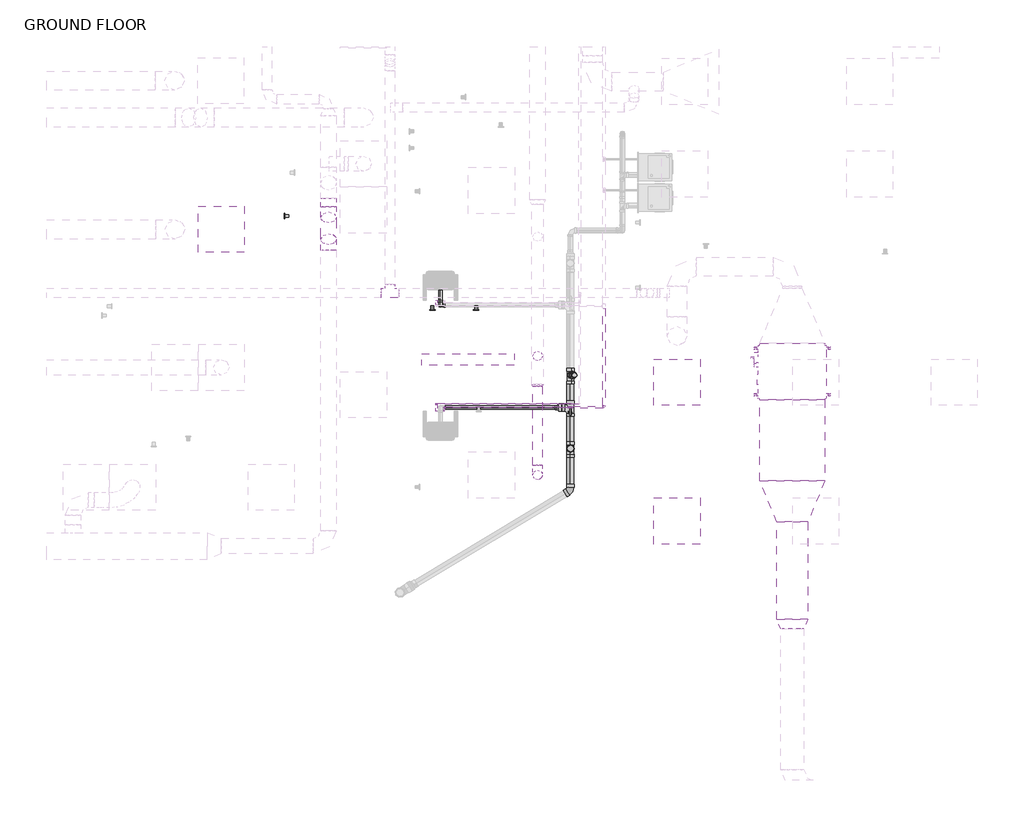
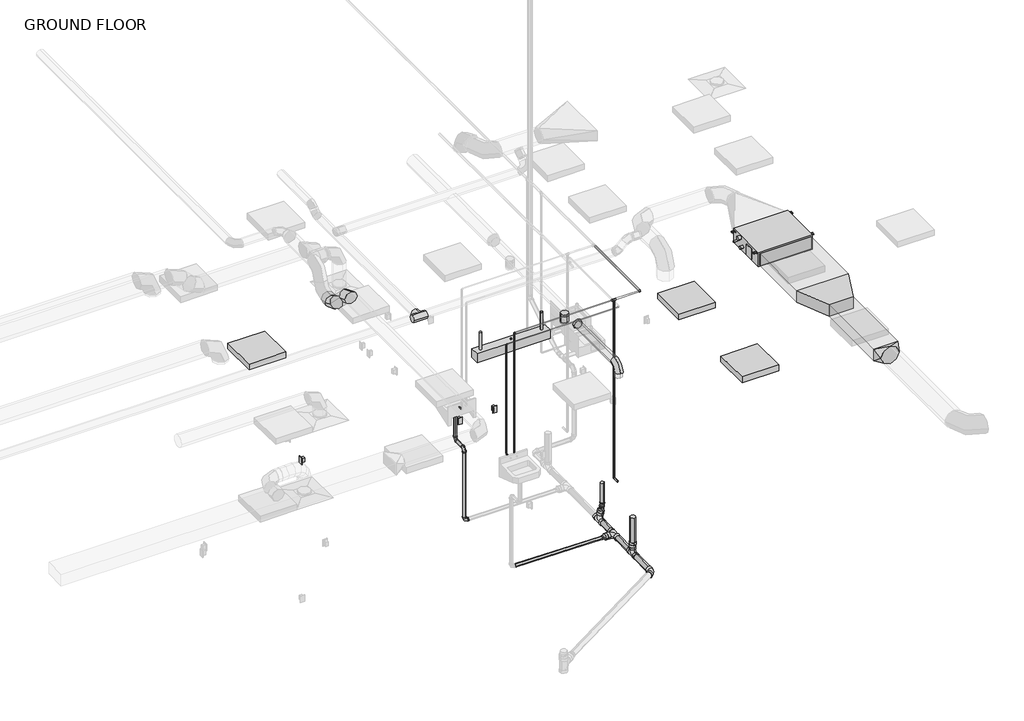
# One storey, part 7 of 21: 22 pipe segments, 20 pipe fittings, 8 duct fittings, 7 duct segments, 4 light fixtures, 3 proxies, 1 switching device.
"""IFC4 building model written with IfcOpenShell, lengths in millimetres."""

from ifc_helpers import new_model, si_unit, point, frame, frame_2d, origin, place, context, project, spatial, polyline, circle_curve, trimmed, segment, composite_curve, outline, extrude, transform, mapped, element, save
from components import mechanical_equipment_7e022f85, duplex_receptacle_countertop_10251bba, rectangular_transition_angle_45_degree_497df859, rectangular_to_round_transition_angle_45_degree_a6b6a24c, round_elbow_1_d_c80420c1, round_elbow_1_d_ab3aa7ba, round_takeoff_standard_0d53327c, round_tee_standard_ef45fe1c, round_transition_angle_45_degree_f2e0231c, suspended_fluorescent_strip_non_hosted_strip_light_1x4_120v_4ea4ccb3, troffer_corner_insert_2x2_3lamp_e67c7f8f, bend_pvc_sch_40_dwv_standard_56513ac6, bend_pvc_sch_40_dwv_standard_efe5b847, bend_pvc_sch_40_dwv_standard_7bd6d8ba, bend_pvc_sch_40_dwv_standard_0d44c437, elbow_generic_standard_c06ac706, elbow_generic_standard_738589b0, elbow_generic_standard_a088f956, reducer_pvc_sch_40_dwv_standard_e0255712, reducer_pvc_sch_40_dwv_standard_bed7e4d3, reducer_pvc_sch_40_dwv_standard_5cd4e870, tee_generic_standard_d345b28c, tee_sanitary_pvc_sch_40_dwv_standard_1c89b272, tee_sanitary_pvc_sch_40_dwv_standard_95650df0, tee_sanitary_pvc_sch_40_dwv_standard_33d2d55c, transition_generic_standard_55f5cc9a, transition_generic_standard_1e832544

model = new_model("IFC4")

# Units and contexts
model_context = context("Model", 3, world=origin())
ifc_project = project(units=[si_unit("LENGTHUNIT", "METRE", prefix="MILLI")], contexts=[model_context])

# Site, building, storey
site = spatial("IfcSite", under=ifc_project)
building = spatial("IfcBuilding", under=site)
storey = spatial("IfcBuildingStorey", under=building, Name="GROUND FLOOR", Elevation=30480.0)

# Proxies
placement = place(None, origin())
mechanical_equipment_shape = mechanical_equipment_7e022f85(model_context)
element("IfcBuildingElementProxy", 1, Name="PEFY-P-NMAU-E_Medium_Static_Ducted : PEFY-P18NMAU-E", ObjectType="PEFY-P-NMAU-E_Medium_Static_Ducted : PEFY-P18NMAU-E", at=placement, inside=storey, context=model_context, shape_type="MappedRepresentation", body=[
    mapped(mechanical_equipment_shape, transform((15856.6983533, -4228.239426, 33604.2), x_axis=(-1.0, 0.0, 0.0), y_axis=(0.0, -1.0, 0.0), z_axis=(0.0, 0.0, 1.0))),
])
duplex_receptacle_countertop_shape = duplex_receptacle_countertop_10251bba(model_context)
element("IfcBuildingElementProxy", 2, Name="Duplex Receptacle : GFCI", ObjectType="Duplex Receptacle : GFCI", at=placement, inside=storey, context=model_context, shape_type="MappedRepresentation", body=[
    mapped(duplex_receptacle_countertop_shape, transform((11695.4238413, -3466.1054995, 31699.2), x_axis=(1.0, 0.0, 0.0), y_axis=(0.0, 0.0, 1.0), z_axis=(0.0, -1.0, 0.0))),
])
element("IfcBuildingElementProxy", 3, Name="Duplex Receptacle : Standard", ObjectType="Duplex Receptacle : Standard", at=placement, inside=storey, context=model_context, shape_type="MappedRepresentation", body=[
    mapped(duplex_receptacle_countertop_shape, transform((9173.5295393, -2231.5768366, 30937.2), x_axis=(0.0, -1.0, 0.0), y_axis=(0.0, 0.0, 1.0), z_axis=(-1.0, 0.0, 0.0))),
])

# Duct fittings
rectangular_transition_angle_45_degree_shape = rectangular_transition_angle_45_degree_497df859(model_context)
element("IfcDuctFitting", 4, ObjectType="Rectangular Transition - Angle : 45 Degree", at=placement, inside=storey, context=model_context, shape_type="MappedRepresentation", body=[
    mapped(rectangular_transition_angle_45_degree_shape, transform((15866.7105962, -5723.664426, 33750.25), x_axis=(0.0, -1.0, 0.0), y_axis=(1.0, 0.0, 0.0), z_axis=(0.0, 0.0, 1.0))),
])
rectangular_to_round_transition_angle_45_degree_shape = rectangular_to_round_transition_angle_45_degree_a6b6a24c(model_context)
element("IfcDuctFitting", 5, ObjectType="Rectangular to Round Transition - Angle : 45 Degree", at=placement, inside=storey, context=model_context, shape_type="MappedRepresentation", body=[
    mapped(rectangular_to_round_transition_angle_45_degree_shape, transform((15866.7105962, -7552.464426, 33750.25), x_axis=(0.0, -1.0, 0.0), y_axis=(1.0, 0.0, 0.0), z_axis=(0.0, 0.0, 1.0))),
])
round_elbow_1_d_shape = round_elbow_1_d_c80420c1(model_context)
element("IfcDuctFitting", 6, ObjectType="Round Elbow : 1 D", at=placement, inside=storey, context=model_context, shape_type="MappedRepresentation", body=[
    mapped(round_elbow_1_d_shape, transform((12507.2795393, -5647.3304995, 33528.0), x_axis=(0.0, 0.0, 1.0), y_axis=(0.0, 1.0, 0.0), z_axis=(-1.0, 0.0, 0.0))),
])
round_elbow_1_d_2_shape = round_elbow_1_d_ab3aa7ba(model_context)
element("IfcDuctFitting", 7, ObjectType="Round Elbow : 1 D", at=placement, inside=storey, context=model_context, shape_type="MappedRepresentation", body=[
    mapped(round_elbow_1_d_2_shape, transform((9751.3795393, -2596.6056414, 33877.25), x_axis=(0.0, 1.0, 0.0), y_axis=(0.0, 0.0, -1.0), z_axis=(-1.0, 0.0, 0.0))),
])
element("IfcDuctFitting", 8, ObjectType="Round Elbow : 1 D", at=placement, inside=storey, context=model_context, shape_type="MappedRepresentation", body=[
    mapped(round_elbow_1_d_2_shape, transform((9751.3795393, -2190.2056414, 33470.85), x_axis=(0.0, 0.7071067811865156, -0.7071067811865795), y_axis=(0.0, 0.7071067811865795, 0.7071067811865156), z_axis=(1.0, 0.0, 0.0))),
])
round_takeoff_standard_shape = round_takeoff_standard_0d53327c(model_context)
element("IfcDuctFitting", 9, ObjectType="Round Takeoff : Standard", at=placement, inside=storey, context=model_context, shape_type="MappedRepresentation", body=[
    mapped(round_takeoff_standard_shape, transform((12507.2795393, -4078.8804995, 33451.8), x_axis=(0.0, 0.0, -1.0), y_axis=(-1.0, 0.0, 0.0), z_axis=(0.0, 1.0, 0.0))),
])
round_tee_standard_shape = round_tee_standard_ef45fe1c(model_context)
element("IfcDuctFitting", 10, ObjectType="Round Tee : Standard", at=placement, inside=storey, context=model_context, shape_type="MappedRepresentation", body=[
    mapped(round_tee_standard_shape, transform((10560.5577502, -3245.6216457, 33602.867541), x_axis=(-1.0, 0.0, 0.0), y_axis=(0.0, -1.0, 0.0), z_axis=(0.0, 0.0, 1.0))),
])
round_transition_angle_45_degree_shape = round_transition_angle_45_degree_f2e0231c(model_context)
element("IfcDuctFitting", 11, ObjectType="Round Transition - Angle : 45 Degree", at=placement, inside=storey, context=model_context, shape_type="MappedRepresentation", body=[
    mapped(round_transition_angle_45_degree_shape, transform((12507.2795393, -4478.9304995, 33528.0), x_axis=(0.0, 1.0, 0.0), y_axis=(-1.0, 0.0, 0.0), z_axis=(0.0, 0.0, 1.0))),
])

# Duct segments
element("IfcDuctSegment", 12, ObjectType="Mitered Elbows / Taps", at=placement, inside=storey, context=model_context, shape_type="SweptSolid", body=[
    extrude(outline(polyline([(15438.8793462, -4656.864426), (16294.5418462, -4656.864426), (16294.5418462, -5723.664426), (15438.8793462, -5723.664426), (15438.8793462, -4656.864426)])), frame((0.0, 0.0, 33647.0625), z_axis=(0.0, 0.0, 1.0), x_axis=(1.0, 0.0, 0.0)), (0.0, 0.0, 1.0), 206.375),
])
element("IfcDuctSegment", 13, ObjectType="Mitered Elbows / Taps", at=placement, inside=storey, context=model_context, shape_type="SweptSolid", body=[
    extrude(outline(polyline([(15663.5105962, -6265.9722363), (16069.9105962, -6265.9722363), (16069.9105962, -7552.464426), (15663.5105962, -7552.464426), (15663.5105962, -6265.9722363)])), frame((0.0, 0.0, 33648.65), z_axis=(0.0, 0.0, 1.0), x_axis=(1.0, 0.0, 0.0)), (0.0, 0.0, 1.0), 203.2),
])
element("IfcDuctSegment", 14, ObjectType="Taps / Short Radius", at=placement, inside=storey, context=model_context, shape_type="SweptSolid", body=[
    extrude(outline(composite_curve([segment(trimmed(circle_curve(frame_2d((33528.0, 12507.2795393)), 63.5), [point((33528.0, 12570.7795393))], [point((33591.5, 12507.2795393))], False, "CARTESIAN"), True, "CONTINUOUS"), segment(trimmed(circle_curve(frame_2d((33528.0, 12507.2795393)), 63.5), [point((33591.5, 12507.2795393))], [point((33528.0, 12443.7795393))], False, "CARTESIAN"), True, "CONTINUOUS"), segment(trimmed(circle_curve(frame_2d((33528.0, 12507.2795393)), 63.5), [point((33528.0, 12443.7795393))], [point((33464.5, 12507.2795393))], False, "CARTESIAN"), True, "CONTINUOUS"), segment(trimmed(circle_curve(frame_2d((33528.0, 12507.2795393)), 63.5), [point((33464.5, 12507.2795393))], [point((33528.0, 12570.7795393))], False, "CARTESIAN"), True, "CONTINUOUS")], self_intersect=False)), frame((0.0, -5520.3304995, 0.0), z_axis=(0.0, 1.0, 0.0), x_axis=(0.0, 0.0, 1.0)), (0.0, 0.0, 1.0), 1041.4),
])
element("IfcDuctSegment", 15, ObjectType="Taps / Short Radius", at=placement, inside=storey, context=model_context, shape_type="SweptSolid", body=[
    extrude(outline(composite_curve([segment(trimmed(circle_curve(frame_2d((12507.2795393, -5647.3304995)), 63.5), [point((12570.7795393, -5647.3304995))], [point((12507.2795393, -5710.8304995))], False, "CARTESIAN"), True, "CONTINUOUS"), segment(trimmed(circle_curve(frame_2d((12507.2795393, -5647.3304995)), 63.5), [point((12507.2795393, -5710.8304995))], [point((12443.7795393, -5647.3304995))], False, "CARTESIAN"), True, "CONTINUOUS"), segment(trimmed(circle_curve(frame_2d((12507.2795393, -5647.3304995)), 63.5), [point((12443.7795393, -5647.3304995))], [point((12507.2795393, -5583.8304995))], False, "CARTESIAN"), True, "CONTINUOUS"), segment(trimmed(circle_curve(frame_2d((12507.2795393, -5647.3304995)), 63.5), [point((12507.2795393, -5583.8304995))], [point((12570.7795393, -5647.3304995))], False, "CARTESIAN"), True, "CONTINUOUS")], self_intersect=False)), frame((0.0, 0.0, 33324.8), z_axis=(0.0, 0.0, 1.0), x_axis=(1.0, 0.0, 0.0)), (0.0, 0.0, 1.0), 76.2),
])
element("IfcDuctSegment", 16, ObjectType="Taps / Short Radius", at=placement, inside=storey, context=model_context, shape_type="SweptSolid", body=[
    extrude(outline(composite_curve([segment(trimmed(circle_curve(frame_2d((0.0, 63.5)), 63.5), [point((-63.5, 63.5))], [point((0.0, 127.0))], False, "CARTESIAN"), True, "CONTINUOUS"), segment(trimmed(circle_curve(frame_2d((0.0, 63.5)), 63.5), [point((0.0, 127.0))], [point((63.5, 63.5))], False, "CARTESIAN"), True, "CONTINUOUS"), segment(trimmed(circle_curve(frame_2d((0.0, 63.5)), 63.5), [point((63.5, 63.5))], [point((0.0, 0.0))], False, "CARTESIAN"), True, "CONTINUOUS"), segment(trimmed(circle_curve(frame_2d((0.0, 63.5)), 63.5), [point((0.0, 0.0))], [point((-63.5, 63.5))], False, "CARTESIAN"), True, "CONTINUOUS")], self_intersect=False)), frame((12507.2795393, -4142.3804995, 33324.8), z_axis=(0.0, -2.3192114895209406e-12, 1.0), x_axis=(1.0, 0.0, 0.0)), (0.0, 0.0, 1.0), 25.4),
])
element("IfcDuctSegment", 17, ObjectType="Taps / Short Radius", at=placement, inside=storey, context=model_context, shape_type="SweptSolid", body=[
    extrude(outline(composite_curve([segment(trimmed(circle_curve(frame_2d((0.0, -101.5999999)), 101.6), [point((101.6, -101.5999999))], [point((0.0, -203.1999999))], False, "CARTESIAN"), True, "CONTINUOUS"), segment(trimmed(circle_curve(frame_2d((0.0, -101.5999999)), 101.6), [point((0.0, -203.1999999))], [point((-101.6, -101.5999999))], False, "CARTESIAN"), True, "CONTINUOUS"), segment(trimmed(circle_curve(frame_2d((0.0, -101.5999999)), 101.6), [point((-101.6, -101.5999999))], [point((0.0, 0.0))], False, "CARTESIAN"), True, "CONTINUOUS"), segment(trimmed(circle_curve(frame_2d((0.0, -101.5999999)), 101.6), [point((0.0, 0.0))], [point((101.6, -101.5999999))], False, "CARTESIAN"), True, "CONTINUOUS")], self_intersect=False)), frame((9751.3795393, -2177.8794945, 33602.207951), z_axis=(0.0, -0.7071067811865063, 0.7071067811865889), x_axis=(1.0, 0.0, 0.0)), (0.0, 0.0, 1.0), 406.4),
])
element("IfcDuctSegment", 18, ObjectType="Taps / Short Radius", at=placement, inside=storey, context=model_context, shape_type="SweptSolid", body=[
    extrude(outline(composite_curve([segment(trimmed(circle_curve(frame_2d((33470.85, 9751.3795393)), 101.6), [point((33470.85, 9649.7795393))], [point((33369.25, 9751.3795393))], False, "CARTESIAN"), True, "CONTINUOUS"), segment(trimmed(circle_curve(frame_2d((33470.85, 9751.3795393)), 101.6), [point((33369.25, 9751.3795393))], [point((33470.85, 9852.9795393))], False, "CARTESIAN"), True, "CONTINUOUS"), segment(trimmed(circle_curve(frame_2d((33470.85, 9751.3795393)), 101.6), [point((33470.85, 9852.9795393))], [point((33572.45, 9751.3795393))], False, "CARTESIAN"), True, "CONTINUOUS"), segment(trimmed(circle_curve(frame_2d((33470.85, 9751.3795393)), 101.6), [point((33572.45, 9751.3795393))], [point((33470.85, 9649.7795393))], False, "CARTESIAN"), True, "CONTINUOUS")], self_intersect=False)), frame((0.0, -2106.0374455, 0.0), z_axis=(0.0, 1.0, 0.0), x_axis=(0.0, 0.0, 1.0)), (0.0, 0.0, 1.0), 109.520905),
])

# Light fixtures
suspended_fluorescent_strip_non_hosted_strip_light_1x4_120v_shape = suspended_fluorescent_strip_non_hosted_strip_light_1x4_120v_4ea4ccb3(model_context)
element("IfcLightFixture", 19, ObjectType="Suspended Fluorescent Strip - Non-Hosted : Strip Light 1x4 - 120V Normal", at=placement, inside=storey, context=model_context, shape_type="MappedRepresentation", body=[
    mapped(suspended_fluorescent_strip_non_hosted_strip_light_1x4_120v_shape, transform((11587.5546722, -4126.5054995, 33223.2), x_axis=(1.0, 0.0, 0.0), y_axis=(0.0, 1.0, 0.0), z_axis=(0.0, 0.0, 1.0))),
])
troffer_corner_insert_2x2_3lamp_shape = troffer_corner_insert_2x2_3lamp_e67c7f8f(model_context)
element("IfcLightFixture", 20, ObjectType="Troffer Corner Insert : 2x2 3Lamp", at=placement, inside=storey, context=model_context, shape_type="MappedRepresentation", body=[
    mapped(troffer_corner_insert_2x2_3lamp_shape, transform((8335.3295393, -2407.6759121, 30784.8), x_axis=(1.0, 0.0, 0.0), y_axis=(0.0, 1.0, 0.0), z_axis=(0.0, 0.0, 1.0))),
])
element("IfcLightFixture", 21, ObjectType="Troffer Corner Insert : 2x2 3Lamp", at=placement, inside=storey, context=model_context, shape_type="MappedRepresentation", body=[
    mapped(troffer_corner_insert_2x2_3lamp_shape, transform((14345.6045393, -4424.9554995, 30784.8), x_axis=(1.0, 0.0, 0.0), y_axis=(0.0, 1.0, 0.0), z_axis=(0.0, 0.0, 1.0))),
])
element("IfcLightFixture", 22, ObjectType="Troffer Corner Insert : 2x2 3Lamp", at=placement, inside=storey, context=model_context, shape_type="MappedRepresentation", body=[
    mapped(troffer_corner_insert_2x2_3lamp_shape, transform((14345.6045393, -6253.7554995, 30784.8), x_axis=(1.0, 0.0, 0.0), y_axis=(0.0, 1.0, 0.0), z_axis=(0.0, 0.0, 1.0))),
])

# Pipe fittings
bend_pvc_sch_40_dwv_standard_shape = bend_pvc_sch_40_dwv_standard_56513ac6(model_context)
element("IfcPipeFitting", 23, ObjectType="Bend - PVC - Sch 40 - DWV : Standard", at=placement, inside=storey, context=model_context, shape_type="MappedRepresentation", body=[
    mapped(bend_pvc_sch_40_dwv_standard_shape, transform((11224.5795393, -3139.0804995, 31140.4), x_axis=(0.0, 0.0, -1.0), y_axis=(0.0, -1.0, 0.0), z_axis=(-1.0, 0.0, 0.0))),
])
element("IfcPipeFitting", 24, ObjectType="Bend - PVC - Sch 40 - DWV : Standard", at=placement, inside=storey, context=model_context, shape_type="MappedRepresentation", body=[
    mapped(bend_pvc_sch_40_dwv_standard_shape, transform((11224.5795393, -3405.7804995, 31137.621875), x_axis=(0.0, -0.9999457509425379, -0.010416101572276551), y_axis=(0.0, 0.010416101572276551, -0.9999457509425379), z_axis=(1.0, 0.0, 0.0))),
])
bend_pvc_sch_40_dwv_standard_2_shape = bend_pvc_sch_40_dwv_standard_efe5b847(model_context)
element("IfcPipeFitting", 25, ObjectType="Bend - PVC - Sch 40 - DWV : Standard", at=placement, inside=storey, context=model_context, shape_type="MappedRepresentation", body=[
    mapped(bend_pvc_sch_40_dwv_standard_2_shape, transform((11224.5795393, -3405.7804995, 29869.9466323), x_axis=(0.0, 0.0, -1.0), y_axis=(1.0, 0.0, 0.0), z_axis=(0.0, -1.0, 0.0))),
])
bend_pvc_sch_40_dwv_standard_3_shape = bend_pvc_sch_40_dwv_standard_7bd6d8ba(model_context)
element("IfcPipeFitting", 26, ObjectType="Bend - PVC - Sch 40 - DWV : Standard", at=placement, inside=storey, context=model_context, shape_type="MappedRepresentation", body=[
    mapped(bend_pvc_sch_40_dwv_standard_3_shape, transform((12939.0795393, -5850.5304995, 29839.1791667), x_axis=(0.8571673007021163, 0.5150380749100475, 0.0), y_axis=(-0.5150000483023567, 0.8571040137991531, 0.012151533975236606), z_axis=(0.006258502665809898, -0.010415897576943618, 0.9999261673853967))),
])
bend_pvc_sch_40_dwv_standard_4_shape = bend_pvc_sch_40_dwv_standard_0d44c437(model_context)
element("IfcPipeFitting", 27, ObjectType="Bend - PVC - Sch 40 - DWV : Standard", at=placement, inside=storey, context=model_context, shape_type="MappedRepresentation", body=[
    mapped(bend_pvc_sch_40_dwv_standard_4_shape, transform((12993.0545393, -4329.7054995, 30099.0), x_axis=(0.0, 0.0, -1.0), y_axis=(-1.0, 0.0, 0.0), z_axis=(0.0, 1.0, 0.0))),
])
elbow_generic_standard_shape = elbow_generic_standard_c06ac706(model_context)
element("IfcPipeFitting", 28, ObjectType="Elbow - Generic : Standard", at=placement, inside=storey, context=model_context, shape_type="MappedRepresentation", body=[
    mapped(elbow_generic_standard_shape, transform((13383.5569177, -4755.5406482, 33978.2831664), x_axis=(1.0, 0.0, 0.0), y_axis=(0.0, 1.0, 0.0), z_axis=(0.0, 0.0, 1.0))),
])
elbow_generic_standard_2_shape = elbow_generic_standard_738589b0(model_context)
element("IfcPipeFitting", 29, ObjectType="Elbow - Generic : Standard", at=placement, inside=storey, context=model_context, shape_type="MappedRepresentation", body=[
    mapped(elbow_generic_standard_2_shape, transform((12942.2545393, -4755.5406482, 30835.6), x_axis=(0.0, 0.0, -1.0), y_axis=(0.0, -1.0, 0.0), z_axis=(-1.0, 0.0, 0.0))),
])
elbow_generic_standard_3_shape = elbow_generic_standard_a088f956(model_context)
element("IfcPipeFitting", 30, ObjectType="Elbow - Generic : Standard", at=placement, inside=storey, context=model_context, shape_type="MappedRepresentation", body=[
    mapped(elbow_generic_standard_3_shape, transform((11275.3795393, -4755.5406482, 31851.6), x_axis=(0.0, 1.0, 0.0), y_axis=(0.0, 0.0, 1.0), z_axis=(1.0, 0.0, 0.0))),
])
element("IfcPipeFitting", 31, ObjectType="Elbow - Generic : Standard", at=placement, inside=storey, context=model_context, shape_type="MappedRepresentation", body=[
    mapped(elbow_generic_standard_3_shape, transform((11275.3795393, -4755.5406482, 33978.2831664), x_axis=(0.0, 0.0, 1.0), y_axis=(1.0, 0.0, 0.0), z_axis=(0.0, 1.0, 0.0))),
])
element("IfcPipeFitting", 32, ObjectType="Elbow - Generic : Standard", at=placement, inside=storey, context=model_context, shape_type="MappedRepresentation", body=[
    mapped(elbow_generic_standard_3_shape, transform((11173.7795393, -4707.5304995, 31851.6), x_axis=(0.0, 1.0, 0.0), y_axis=(0.0, 0.0, 1.0), z_axis=(1.0, 0.0, 0.0))),
])
element("IfcPipeFitting", 33, ObjectType="Elbow - Generic : Standard", at=placement, inside=storey, context=model_context, shape_type="MappedRepresentation", body=[
    mapped(elbow_generic_standard_3_shape, transform((11173.7795393, -4707.5304995, 33782.0), x_axis=(0.0, 0.0, 1.0), y_axis=(1.0, 0.0, 0.0), z_axis=(0.0, 1.0, 0.0))),
])
reducer_pvc_sch_40_dwv_standard_shape = reducer_pvc_sch_40_dwv_standard_e0255712(model_context)
element("IfcPipeFitting", 34, ObjectType="Reducer - PVC - Sch 40 - DWV : Standard", at=placement, inside=storey, context=model_context, shape_type="MappedRepresentation", body=[
    mapped(reducer_pvc_sch_40_dwv_standard_shape, transform((12939.0795393, -5298.0804995, 29960.8340542), x_axis=(0.0, 0.0, 1.0), y_axis=(1.0, 0.0, 0.0), z_axis=(0.0, 1.0, 0.0))),
])
reducer_pvc_sch_40_dwv_standard_2_shape = reducer_pvc_sch_40_dwv_standard_bed7e4d3(model_context)
element("IfcPipeFitting", 35, ObjectType="Reducer - PVC - Sch 40 - DWV : Standard", at=placement, inside=storey, context=model_context, shape_type="MappedRepresentation", body=[
    mapped(reducer_pvc_sch_40_dwv_standard_2_shape, transform((12823.1871597, -4758.3304995, 29851.9026209), x_axis=(-0.9999325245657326, 0.0, 0.011616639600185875), y_axis=(-0.00012099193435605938, -0.9999457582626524, -0.010414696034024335), z_axis=(0.01161600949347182, -0.010415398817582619, 0.9998782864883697))),
])
reducer_pvc_sch_40_dwv_standard_3_shape = reducer_pvc_sch_40_dwv_standard_5cd4e870(model_context)
element("IfcPipeFitting", 36, ObjectType="Reducer - PVC - Sch 40 - DWV : Standard", at=placement, inside=storey, context=model_context, shape_type="MappedRepresentation", body=[
    mapped(reducer_pvc_sch_40_dwv_standard_3_shape, transform((12963.7691002, -4329.7054995, 29968.2251453), x_axis=(0.2130243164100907, 0.0, 0.977046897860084), y_axis=(-0.0021680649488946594, 0.9999975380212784, 0.00047270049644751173), z_axis=(-0.9770444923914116, -0.0022189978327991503, 0.21302379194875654))),
])
tee_generic_standard_shape = tee_generic_standard_d345b28c(model_context)
element("IfcPipeFitting", 37, ObjectType="Tee - Generic : Standard", at=placement, inside=storey, context=model_context, shape_type="MappedRepresentation", body=[
    mapped(tee_generic_standard_shape, transform((12942.2545393, -4755.5406482, 33978.2831664), x_axis=(-1.0, 0.0, 0.0), y_axis=(0.0, 0.0, 1.0), z_axis=(0.0, 1.0, 0.0))),
])
tee_sanitary_pvc_sch_40_dwv_standard_shape = tee_sanitary_pvc_sch_40_dwv_standard_1c89b272(model_context)
element("IfcPipeFitting", 38, ObjectType="Tee Sanitary - PVC - Sch 40 - DWV : Standard", at=placement, inside=storey, context=model_context, shape_type="MappedRepresentation", body=[
    mapped(tee_sanitary_pvc_sch_40_dwv_standard_shape, transform((12939.0795393, -5298.0804995, 29844.9338542), x_axis=(0.0, 0.9999457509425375, 0.010416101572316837), y_axis=(0.0, 0.010416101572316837, -0.9999457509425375), z_axis=(-1.0, 0.0, 0.0))),
])
tee_sanitary_pvc_sch_40_dwv_standard_2_shape = tee_sanitary_pvc_sch_40_dwv_standard_95650df0(model_context)
element("IfcPipeFitting", 39, ObjectType="Tee Sanitary - PVC - Sch 40 - DWV : Standard", at=placement, inside=storey, context=model_context, shape_type="MappedRepresentation", body=[
    mapped(tee_sanitary_pvc_sch_40_dwv_standard_2_shape, transform((12939.0795393, -4758.3304995, 29850.55625), x_axis=(0.0, 0.9999457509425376, 0.010416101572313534), y_axis=(0.9999325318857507, 0.00012099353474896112, -0.011615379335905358), z_axis=(-0.011616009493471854, 0.010415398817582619, -0.9998782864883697))),
])
tee_sanitary_pvc_sch_40_dwv_standard_3_shape = tee_sanitary_pvc_sch_40_dwv_standard_33d2d55c(model_context)
element("IfcPipeFitting", 40, ObjectType="Tee Sanitary - PVC - Sch 40 - DWV : Standard", at=placement, inside=storey, context=model_context, shape_type="MappedRepresentation", body=[
    mapped(tee_sanitary_pvc_sch_40_dwv_standard_3_shape, transform((12939.0795393, -4329.7058732, 29855.0210899), x_axis=(0.0, 0.9999457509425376, 0.01041610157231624), y_axis=(-0.2130353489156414, 0.010176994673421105, -0.9769914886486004), z_axis=(-0.9770444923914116, -0.0022189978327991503, 0.21302379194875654))),
])
transition_generic_standard_shape = transition_generic_standard_55f5cc9a(model_context)
element("IfcPipeFitting", 41, ObjectType="Transition - Generic : Standard", at=placement, inside=storey, context=model_context, shape_type="MappedRepresentation", body=[
    mapped(transition_generic_standard_shape, transform((12903.0725627, -4755.5406482, 33978.2831664), x_axis=(1.0, 0.0, 0.0), y_axis=(0.0, 1.0, 0.0), z_axis=(0.0, 0.0, 1.0))),
])
transition_generic_standard_2_shape = transition_generic_standard_1e832544(model_context)
element("IfcPipeFitting", 42, ObjectType="Transition - Generic : Standard", at=placement, inside=storey, context=model_context, shape_type="MappedRepresentation", body=[
    mapped(transition_generic_standard_2_shape, transform((12942.2545393, -4755.5406482, 33951.2956664), x_axis=(0.0, 0.0, -1.0), y_axis=(1.0, 0.0, 0.0), z_axis=(0.0, -1.0, 0.0))),
])

# Pipe segments
element("IfcPipeSegment", 43, ObjectType="Copper", at=placement, inside=storey, context=model_context, shape_type="SweptSolid", body=[
    extrude(outline(composite_curve([segment(trimmed(circle_curve(frame_2d((33978.2831664, 13383.5569177)), 14.2875), [point((33978.2831664, 13369.2694177))], [point((33963.9956664, 13383.5569177))], False, "CARTESIAN"), True, "CONTINUOUS"), segment(trimmed(circle_curve(frame_2d((33978.2831664, 13383.5569177)), 14.2875), [point((33963.9956664, 13383.5569177))], [point((33978.2831664, 13397.8444177))], False, "CARTESIAN"), True, "CONTINUOUS"), segment(trimmed(circle_curve(frame_2d((33978.2831664, 13383.5569177)), 14.2875), [point((33978.2831664, 13397.8444177))], [point((33992.5706664, 13383.5569177))], False, "CARTESIAN"), True, "CONTINUOUS"), segment(trimmed(circle_curve(frame_2d((33978.2831664, 13383.5569177)), 14.2875), [point((33992.5706664, 13383.5569177))], [point((33978.2831664, 13369.2694177))], False, "CARTESIAN"), True, "CONTINUOUS")], self_intersect=False)), frame((0.0, -4734.9031482, 0.0), z_axis=(0.0, 1.0, 0.0), x_axis=(0.0, 0.0, 1.0)), (0.0, 0.0, 1.0), 1289.4351487),
])
element("IfcPipeSegment", 44, ObjectType="Copper", at=placement, inside=storey, context=model_context, shape_type="SweptSolid", body=[
    extrude(outline(composite_curve([segment(trimmed(circle_curve(frame_2d((-4755.5406482, 33978.2831664)), 14.2875), [point((-4741.2531482, 33978.2831664))], [point((-4755.5406482, 33963.9956664))], False, "CARTESIAN"), True, "CONTINUOUS"), segment(trimmed(circle_curve(frame_2d((-4755.5406482, 33978.2831664)), 14.2875), [point((-4755.5406482, 33963.9956664))], [point((-4769.8281482, 33978.2831664))], False, "CARTESIAN"), True, "CONTINUOUS"), segment(trimmed(circle_curve(frame_2d((-4755.5406482, 33978.2831664)), 14.2875), [point((-4769.8281482, 33978.2831664))], [point((-4755.5406482, 33992.5706664))], False, "CARTESIAN"), True, "CONTINUOUS"), segment(trimmed(circle_curve(frame_2d((-4755.5406482, 33978.2831664)), 14.2875), [point((-4755.5406482, 33992.5706664))], [point((-4741.2531482, 33978.2831664))], False, "CARTESIAN"), True, "CONTINUOUS")], self_intersect=False)), frame((12910.2163127, 0.0, 0.0), z_axis=(1.0, 0.0, 0.0), x_axis=(0.0, 1.0, 0.0)), (0.0, 0.0, 1.0), 5.0507266),
])
element("IfcPipeSegment", 45, ObjectType="Copper", at=placement, inside=storey, context=model_context, shape_type="SweptSolid", body=[
    extrude(outline(composite_curve([segment(trimmed(circle_curve(frame_2d((31851.6, 11275.3795393)), 7.9375), [point((31851.6, 11283.3170393))], [point((31859.5375, 11275.3795393))], False, "CARTESIAN"), True, "CONTINUOUS"), segment(trimmed(circle_curve(frame_2d((31851.6, 11275.3795393)), 7.9375), [point((31859.5375, 11275.3795393))], [point((31851.6, 11267.4420393))], False, "CARTESIAN"), True, "CONTINUOUS"), segment(trimmed(circle_curve(frame_2d((31851.6, 11275.3795393)), 7.9375), [point((31851.6, 11267.4420393))], [point((31843.6625, 11275.3795393))], False, "CARTESIAN"), True, "CONTINUOUS"), segment(trimmed(circle_curve(frame_2d((31851.6, 11275.3795393)), 7.9375), [point((31843.6625, 11275.3795393))], [point((31851.6, 11283.3170393))], False, "CARTESIAN"), True, "CONTINUOUS")], self_intersect=False)), frame((0.0, -4809.1304995, 0.0), z_axis=(0.0, 1.0, 0.0), x_axis=(0.0, 0.0, 1.0)), (0.0, 0.0, 1.0), 39.3023513),
])
element("IfcPipeSegment", 46, ObjectType="Copper", at=placement, inside=storey, context=model_context, shape_type="SweptSolid", body=[
    extrude(outline(composite_curve([segment(trimmed(circle_curve(frame_2d((-4755.5406482, 33978.2831664)), 7.9375), [point((-4763.4781482, 33978.2831664))], [point((-4755.5406482, 33986.2206664))], False, "CARTESIAN"), True, "CONTINUOUS"), segment(trimmed(circle_curve(frame_2d((-4755.5406482, 33978.2831664)), 7.9375), [point((-4755.5406482, 33986.2206664))], [point((-4747.6031482, 33978.2831664))], False, "CARTESIAN"), True, "CONTINUOUS"), segment(trimmed(circle_curve(frame_2d((-4755.5406482, 33978.2831664)), 7.9375), [point((-4747.6031482, 33978.2831664))], [point((-4755.5406482, 33970.3456664))], False, "CARTESIAN"), True, "CONTINUOUS"), segment(trimmed(circle_curve(frame_2d((-4755.5406482, 33978.2831664)), 7.9375), [point((-4755.5406482, 33970.3456664))], [point((-4763.4781482, 33978.2831664))], False, "CARTESIAN"), True, "CONTINUOUS")], self_intersect=False)), frame((11289.6670393, 0.0, 0.0), z_axis=(1.0, 0.0, 0.0), x_axis=(0.0, 1.0, 0.0)), (0.0, 0.0, 1.0), 1613.4055234),
])
element("IfcPipeSegment", 47, ObjectType="Copper", at=placement, inside=storey, context=model_context, shape_type="SweptSolid", body=[
    extrude(outline(composite_curve([segment(trimmed(circle_curve(frame_2d((11275.3795393, -4755.5406482)), 7.9375), [point((11267.4420393, -4755.5406482))], [point((11275.3795393, -4747.6031482))], False, "CARTESIAN"), True, "CONTINUOUS"), segment(trimmed(circle_curve(frame_2d((11275.3795393, -4755.5406482)), 7.9375), [point((11275.3795393, -4747.6031482))], [point((11283.3170393, -4755.5406482))], False, "CARTESIAN"), True, "CONTINUOUS"), segment(trimmed(circle_curve(frame_2d((11275.3795393, -4755.5406482)), 7.9375), [point((11283.3170393, -4755.5406482))], [point((11275.3795393, -4763.4781482))], False, "CARTESIAN"), True, "CONTINUOUS"), segment(trimmed(circle_curve(frame_2d((11275.3795393, -4755.5406482)), 7.9375), [point((11275.3795393, -4763.4781482))], [point((11267.4420393, -4755.5406482))], False, "CARTESIAN"), True, "CONTINUOUS")], self_intersect=False)), frame((0.0, 0.0, 31865.8875), z_axis=(0.0, 0.0, 1.0), x_axis=(1.0, 0.0, 0.0)), (0.0, 0.0, 1.0), 2098.1081664),
])
element("IfcPipeSegment", 48, ObjectType="Copper", at=placement, inside=storey, context=model_context, shape_type="SweptSolid", body=[
    extrude(outline(composite_curve([segment(trimmed(circle_curve(frame_2d((30835.6, 12942.2545393)), 11.1125), [point((30835.6, 12931.1420393))], [point((30824.4875, 12942.2545393))], False, "CARTESIAN"), True, "CONTINUOUS"), segment(trimmed(circle_curve(frame_2d((30835.6, 12942.2545393)), 11.1125), [point((30824.4875, 12942.2545393))], [point((30835.6, 12953.3670393))], False, "CARTESIAN"), True, "CONTINUOUS"), segment(trimmed(circle_curve(frame_2d((30835.6, 12942.2545393)), 11.1125), [point((30835.6, 12953.3670393))], [point((30846.7125, 12942.2545393))], False, "CARTESIAN"), True, "CONTINUOUS"), segment(trimmed(circle_curve(frame_2d((30835.6, 12942.2545393)), 11.1125), [point((30846.7125, 12942.2545393))], [point((30835.6, 12931.1420393))], False, "CARTESIAN"), True, "CONTINUOUS")], self_intersect=False)), frame((0.0, -4859.9304995, 0.0), z_axis=(0.0, 1.0, 0.0), x_axis=(0.0, 0.0, 1.0)), (0.0, 0.0, 1.0), 86.9273513),
])
element("IfcPipeSegment", 49, ObjectType="Copper", at=placement, inside=storey, context=model_context, shape_type="SweptSolid", body=[
    extrude(outline(composite_curve([segment(trimmed(circle_curve(frame_2d((12942.2545393, -4755.5406482)), 11.1125), [point((12953.3670393, -4755.5406482))], [point((12942.2545393, -4766.6531482))], False, "CARTESIAN"), True, "CONTINUOUS"), segment(trimmed(circle_curve(frame_2d((12942.2545393, -4755.5406482)), 11.1125), [point((12942.2545393, -4766.6531482))], [point((12931.1420393, -4755.5406482))], False, "CARTESIAN"), True, "CONTINUOUS"), segment(trimmed(circle_curve(frame_2d((12942.2545393, -4755.5406482)), 11.1125), [point((12931.1420393, -4755.5406482))], [point((12942.2545393, -4744.4281482))], False, "CARTESIAN"), True, "CONTINUOUS"), segment(trimmed(circle_curve(frame_2d((12942.2545393, -4755.5406482)), 11.1125), [point((12942.2545393, -4744.4281482))], [point((12953.3670393, -4755.5406482))], False, "CARTESIAN"), True, "CONTINUOUS")], self_intersect=False)), frame((0.0, 0.0, 30853.0625), z_axis=(0.0, 0.0, 1.0), x_axis=(1.0, 0.0, 0.0)), (0.0, 0.0, 1.0), 3091.0894164),
])
element("IfcPipeSegment", 50, ObjectType="Copper", at=placement, inside=storey, context=model_context, shape_type="SweptSolid", body=[
    extrude(outline(composite_curve([segment(trimmed(circle_curve(frame_2d((-4755.5406482, 33978.2831664)), 14.2875), [point((-4741.2531482, 33978.2831664))], [point((-4755.5406482, 33963.9956664))], False, "CARTESIAN"), True, "CONTINUOUS"), segment(trimmed(circle_curve(frame_2d((-4755.5406482, 33978.2831664)), 14.2875), [point((-4755.5406482, 33963.9956664))], [point((-4769.8281482, 33978.2831664))], False, "CARTESIAN"), True, "CONTINUOUS"), segment(trimmed(circle_curve(frame_2d((-4755.5406482, 33978.2831664)), 14.2875), [point((-4769.8281482, 33978.2831664))], [point((-4755.5406482, 33992.5706664))], False, "CARTESIAN"), True, "CONTINUOUS"), segment(trimmed(circle_curve(frame_2d((-4755.5406482, 33978.2831664)), 14.2875), [point((-4755.5406482, 33992.5706664))], [point((-4741.2531482, 33978.2831664))], False, "CARTESIAN"), True, "CONTINUOUS")], self_intersect=False)), frame((12969.2420393, 0.0, 0.0), z_axis=(1.0, 0.0, 0.0), x_axis=(0.0, 1.0, 0.0)), (0.0, 0.0, 1.0), 393.6773784),
])
element("IfcPipeSegment", 51, ObjectType="Copper", at=placement, inside=storey, context=model_context, shape_type="SweptSolid", body=[
    extrude(outline(composite_curve([segment(trimmed(circle_curve(frame_2d((31851.6, 11173.7795393)), 7.9375), [point((31851.6, 11165.8420393))], [point((31843.6625, 11173.7795393))], False, "CARTESIAN"), True, "CONTINUOUS"), segment(trimmed(circle_curve(frame_2d((31851.6, 11173.7795393)), 7.9375), [point((31843.6625, 11173.7795393))], [point((31851.6, 11181.7170393))], False, "CARTESIAN"), True, "CONTINUOUS"), segment(trimmed(circle_curve(frame_2d((31851.6, 11173.7795393)), 7.9375), [point((31851.6, 11181.7170393))], [point((31859.5375, 11173.7795393))], False, "CARTESIAN"), True, "CONTINUOUS"), segment(trimmed(circle_curve(frame_2d((31851.6, 11173.7795393)), 7.9375), [point((31859.5375, 11173.7795393))], [point((31851.6, 11165.8420393))], False, "CARTESIAN"), True, "CONTINUOUS")], self_intersect=False)), frame((0.0, -3404.1929995, 0.0), z_axis=(0.0, 1.0, 0.0), x_axis=(0.0, 0.0, 1.0)), (0.0, 0.0, 1.0), 61.9125),
])
element("IfcPipeSegment", 52, ObjectType="Copper", at=placement, inside=storey, context=model_context, shape_type="SweptSolid", body=[
    extrude(outline(composite_curve([segment(trimmed(circle_curve(frame_2d((31851.6, 11173.7795393)), 7.9375), [point((31851.6, 11181.7170393))], [point((31859.5375, 11173.7795393))], False, "CARTESIAN"), True, "CONTINUOUS"), segment(trimmed(circle_curve(frame_2d((31851.6, 11173.7795393)), 7.9375), [point((31859.5375, 11173.7795393))], [point((31851.6, 11165.8420393))], False, "CARTESIAN"), True, "CONTINUOUS"), segment(trimmed(circle_curve(frame_2d((31851.6, 11173.7795393)), 7.9375), [point((31851.6, 11165.8420393))], [point((31843.6625, 11173.7795393))], False, "CARTESIAN"), True, "CONTINUOUS"), segment(trimmed(circle_curve(frame_2d((31851.6, 11173.7795393)), 7.9375), [point((31843.6625, 11173.7795393))], [point((31851.6, 11181.7170393))], False, "CARTESIAN"), True, "CONTINUOUS")], self_intersect=False)), frame((0.0, -4809.1304995, 0.0), z_axis=(0.0, 1.0, 0.0), x_axis=(0.0, 0.0, 1.0)), (0.0, 0.0, 1.0), 87.3125),
])
element("IfcPipeSegment", 53, ObjectType="Copper", at=placement, inside=storey, context=model_context, shape_type="SweptSolid", body=[
    extrude(outline(composite_curve([segment(trimmed(circle_curve(frame_2d((-4707.5304995, 33782.0)), 7.9375), [point((-4715.4679995, 33782.0))], [point((-4707.5304995, 33789.9375))], False, "CARTESIAN"), True, "CONTINUOUS"), segment(trimmed(circle_curve(frame_2d((-4707.5304995, 33782.0)), 7.9375), [point((-4707.5304995, 33789.9375))], [point((-4699.5929995, 33782.0))], False, "CARTESIAN"), True, "CONTINUOUS"), segment(trimmed(circle_curve(frame_2d((-4707.5304995, 33782.0)), 7.9375), [point((-4699.5929995, 33782.0))], [point((-4707.5304995, 33774.0625))], False, "CARTESIAN"), True, "CONTINUOUS"), segment(trimmed(circle_curve(frame_2d((-4707.5304995, 33782.0)), 7.9375), [point((-4707.5304995, 33774.0625))], [point((-4715.4679995, 33782.0))], False, "CARTESIAN"), True, "CONTINUOUS")], self_intersect=False)), frame((11188.0670393, 0.0, 0.0), z_axis=(1.0, 0.0, 0.0), x_axis=(0.0, 1.0, 0.0)), (0.0, 0.0, 1.0), 1858.5966648),
])
element("IfcPipeSegment", 54, ObjectType="Copper", at=placement, inside=storey, context=model_context, shape_type="SweptSolid", body=[
    extrude(outline(composite_curve([segment(trimmed(circle_curve(frame_2d((11173.7795393, -4707.5304995)), 7.9375), [point((11165.8420393, -4707.5304995))], [point((11173.7795393, -4699.5929995))], False, "CARTESIAN"), True, "CONTINUOUS"), segment(trimmed(circle_curve(frame_2d((11173.7795393, -4707.5304995)), 7.9375), [point((11173.7795393, -4699.5929995))], [point((11181.7170393, -4707.5304995))], False, "CARTESIAN"), True, "CONTINUOUS"), segment(trimmed(circle_curve(frame_2d((11173.7795393, -4707.5304995)), 7.9375), [point((11181.7170393, -4707.5304995))], [point((11173.7795393, -4715.4679995))], False, "CARTESIAN"), True, "CONTINUOUS"), segment(trimmed(circle_curve(frame_2d((11173.7795393, -4707.5304995)), 7.9375), [point((11173.7795393, -4715.4679995))], [point((11165.8420393, -4707.5304995))], False, "CARTESIAN"), True, "CONTINUOUS")], self_intersect=False)), frame((0.0, 0.0, 31865.8875), z_axis=(0.0, 0.0, 1.0), x_axis=(1.0, 0.0, 0.0)), (0.0, 0.0, 1.0), 1901.825),
])
element("IfcPipeSegment", 55, ObjectType="PVC - DWV", at=placement, inside=storey, context=model_context, shape_type="SweptSolid", body=[
    extrude(outline(composite_curve([segment(trimmed(circle_curve(frame_2d((12942.2545393, -5298.0804995)), 44.45), [point((12986.7045393, -5298.0804995))], [point((12942.2545393, -5342.5304995))], False, "CARTESIAN"), True, "CONTINUOUS"), segment(trimmed(circle_curve(frame_2d((12942.2545393, -5298.0804995)), 44.45), [point((12942.2545393, -5342.5304995))], [point((12897.8045393, -5298.0804995))], False, "CARTESIAN"), True, "CONTINUOUS"), segment(trimmed(circle_curve(frame_2d((12942.2545393, -5298.0804995)), 44.45), [point((12897.8045393, -5298.0804995))], [point((12942.2545393, -5253.6304995))], False, "CARTESIAN"), True, "CONTINUOUS"), segment(trimmed(circle_curve(frame_2d((12942.2545393, -5298.0804995)), 44.45), [point((12942.2545393, -5253.6304995))], [point((12986.7045393, -5298.0804995))], False, "CARTESIAN"), True, "CONTINUOUS")], self_intersect=False)), frame((0.0, 0.0, 30043.6261479), z_axis=(0.0, 0.0, 1.0), x_axis=(1.0, 0.0, 0.0)), (0.0, 0.0, 1.0), 436.3738521),
])
element("IfcPipeSegment", 56, ObjectType="PVC - DWV", at=placement, inside=storey, context=model_context, shape_type="SweptSolid", body=[
    extrude(outline(composite_curve([segment(trimmed(circle_curve(frame_2d((0.0, -44.4500001)), 44.45), [point((-44.45, -44.4500001))], [point((0.0, 0.0))], False, "CARTESIAN"), True, "CONTINUOUS"), segment(trimmed(circle_curve(frame_2d((0.0, -44.4500001)), 44.45), [point((0.0, 0.0))], [point((44.45, -44.4500001))], False, "CARTESIAN"), True, "CONTINUOUS"), segment(trimmed(circle_curve(frame_2d((0.0, -44.4500001)), 44.45), [point((44.45, -44.4500001))], [point((0.0, -88.9))], False, "CARTESIAN"), True, "CONTINUOUS"), segment(trimmed(circle_curve(frame_2d((0.0, -44.4500001)), 44.45), [point((0.0, -88.9))], [point((-44.45, -44.4500001))], False, "CARTESIAN"), True, "CONTINUOUS")], self_intersect=False)), frame((12939.0795393, -5769.0966966, 29795.5750239), z_axis=(0.0, 0.9999457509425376, 0.010416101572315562), x_axis=(1.0, 0.0, 0.0)), (0.0, 0.0, 1.0), 355.6045715),
])
element("IfcPipeSegment", 57, ObjectType="PVC - DWV", at=placement, inside=storey, context=model_context, shape_type="SweptSolid", body=[
    extrude(outline(composite_curve([segment(trimmed(circle_curve(frame_2d((0.0, -44.45)), 44.45), [point((-44.45, -44.45))], [point((0.0, 0.0))], False, "CARTESIAN"), True, "CONTINUOUS"), segment(trimmed(circle_curve(frame_2d((0.0, -44.45)), 44.45), [point((0.0, 0.0))], [point((44.45, -44.45))], False, "CARTESIAN"), True, "CONTINUOUS"), segment(trimmed(circle_curve(frame_2d((0.0, -44.45)), 44.45), [point((44.45, -44.45))], [point((0.0, -88.8999999))], False, "CARTESIAN"), True, "CONTINUOUS"), segment(trimmed(circle_curve(frame_2d((0.0, -44.45)), 44.45), [point((0.0, -88.8999999))], [point((-44.45, -44.45))], False, "CARTESIAN"), True, "CONTINUOUS")], self_intersect=False)), frame((12939.0795393, -5208.4480935, 29801.4151136), z_axis=(0.0, 0.9999457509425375, 0.010416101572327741), x_axis=(1.0, 0.0, 0.0)), (0.0, 0.0, 1.0), 334.7048346),
])
element("IfcPipeSegment", 58, ObjectType="PVC - DWV", at=placement, inside=storey, context=model_context, shape_type="SweptSolid", body=[
    extrude(outline(composite_curve([segment(trimmed(circle_curve(frame_2d((0.0, 24.209375)), 24.209375), [point((0.0, 48.41875))], [point((24.209375, 24.209375))], False, "CARTESIAN"), True, "CONTINUOUS"), segment(trimmed(circle_curve(frame_2d((0.0, 24.209375)), 24.209375), [point((24.209375, 24.209375))], [point((0.0, 0.0))], False, "CARTESIAN"), True, "CONTINUOUS"), segment(trimmed(circle_curve(frame_2d((0.0, 24.209375)), 24.209375), [point((0.0, 0.0))], [point((-24.209375, 24.209375))], False, "CARTESIAN"), True, "CONTINUOUS"), segment(trimmed(circle_curve(frame_2d((0.0, 24.209375)), 24.209375), [point((-24.209375, 24.209375))], [point((0.0, 48.41875))], False, "CARTESIAN"), True, "CONTINUOUS")], self_intersect=False)), frame((12739.8553829, -4782.5398745, 29852.8707214), z_axis=(-0.9999325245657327, 0.0, 0.011616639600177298), x_axis=(0.011616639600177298, 0.0, 0.9999325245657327)), (0.0, 0.0, 1.0), 1453.4782944),
])
element("IfcPipeSegment", 59, ObjectType="PVC - DWV", at=placement, inside=storey, context=model_context, shape_type="SweptSolid", body=[
    extrude(outline(composite_curve([segment(trimmed(circle_curve(frame_2d((0.0, -44.45)), 44.45), [point((-44.45, -44.45))], [point((0.0, 0.0))], False, "CARTESIAN"), True, "CONTINUOUS"), segment(trimmed(circle_curve(frame_2d((0.0, -44.45)), 44.45), [point((0.0, 0.0))], [point((44.45, -44.45))], False, "CARTESIAN"), True, "CONTINUOUS"), segment(trimmed(circle_curve(frame_2d((0.0, -44.45)), 44.45), [point((44.45, -44.45))], [point((0.0, -88.9))], False, "CARTESIAN"), True, "CONTINUOUS"), segment(trimmed(circle_curve(frame_2d((0.0, -44.45)), 44.45), [point((0.0, -88.9))], [point((-44.45, -44.45))], False, "CARTESIAN"), True, "CONTINUOUS")], self_intersect=False)), frame((12939.0795393, -4669.4962846, 29807.0291949), z_axis=(0.0, 0.9999457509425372, 0.01041610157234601), x_axis=(1.0, 0.0, 0.0)), (0.0, 0.0, 1.0), 224.3716666),
])
element("IfcPipeSegment", 60, ObjectType="PVC - DWV", at=placement, inside=storey, context=model_context, shape_type="SweptSolid", body=[
    extrude(outline(composite_curve([segment(trimmed(circle_curve(frame_2d((0.0, -24.209375)), 24.209375), [point((-24.209375, -24.209375))], [point((0.0, 0.0))], False, "CARTESIAN"), True, "CONTINUOUS"), segment(trimmed(circle_curve(frame_2d((0.0, -24.209375)), 24.209375), [point((0.0, 0.0))], [point((24.209375, -24.209375))], False, "CARTESIAN"), True, "CONTINUOUS"), segment(trimmed(circle_curve(frame_2d((0.0, -24.209375)), 24.209375), [point((24.209375, -24.209375))], [point((0.0, -48.4187501))], False, "CARTESIAN"), True, "CONTINUOUS"), segment(trimmed(circle_curve(frame_2d((0.0, -24.209375)), 24.209375), [point((0.0, -48.4187501))], [point((-24.209375, -24.209375))], False, "CARTESIAN"), True, "CONTINUOUS")], self_intersect=False)), frame((11224.5795393, -3343.6318902, 31114.0585679), z_axis=(0.0, 0.9999457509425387, 0.010416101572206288), x_axis=(1.0, 0.0, 0.0)), (0.0, 0.0, 1.0), 142.914869),
])
element("IfcPipeSegment", 61, ObjectType="PVC - DWV", at=placement, inside=storey, context=model_context, shape_type="SweptSolid", body=[
    extrude(outline(composite_curve([segment(trimmed(circle_curve(frame_2d((11224.5795393, -3139.0804995)), 24.209375), [point((11248.7889143, -3139.0804995))], [point((11224.5795393, -3163.2898745))], False, "CARTESIAN"), True, "CONTINUOUS"), segment(trimmed(circle_curve(frame_2d((11224.5795393, -3139.0804995)), 24.209375), [point((11224.5795393, -3163.2898745))], [point((11200.3701643, -3139.0804995))], False, "CARTESIAN"), True, "CONTINUOUS"), segment(trimmed(circle_curve(frame_2d((11224.5795393, -3139.0804995)), 24.209375), [point((11200.3701643, -3139.0804995))], [point((11224.5795393, -3114.8711245))], False, "CARTESIAN"), True, "CONTINUOUS"), segment(trimmed(circle_curve(frame_2d((11224.5795393, -3139.0804995)), 24.209375), [point((11224.5795393, -3114.8711245))], [point((11248.7889143, -3139.0804995))], False, "CARTESIAN"), True, "CONTINUOUS")], self_intersect=False)), frame((0.0, 0.0, 31202.2998), z_axis=(0.0, 0.0, 1.0), x_axis=(1.0, 0.0, 0.0)), (0.0, 0.0, 1.0), 382.6002),
])
element("IfcPipeSegment", 62, ObjectType="PVC - DWV", at=placement, inside=storey, context=model_context, shape_type="SweptSolid", body=[
    extrude(outline(composite_curve([segment(trimmed(circle_curve(frame_2d((11224.5795393, -3405.7804995)), 24.209375), [point((11248.7889143, -3405.7804995))], [point((11224.5795393, -3429.9898745))], False, "CARTESIAN"), True, "CONTINUOUS"), segment(trimmed(circle_curve(frame_2d((11224.5795393, -3405.7804995)), 24.209375), [point((11224.5795393, -3429.9898745))], [point((11200.3701643, -3405.7804995))], False, "CARTESIAN"), True, "CONTINUOUS"), segment(trimmed(circle_curve(frame_2d((11224.5795393, -3405.7804995)), 24.209375), [point((11200.3701643, -3405.7804995))], [point((11224.5795393, -3381.5711245))], False, "CARTESIAN"), True, "CONTINUOUS"), segment(trimmed(circle_curve(frame_2d((11224.5795393, -3405.7804995)), 24.209375), [point((11224.5795393, -3381.5711245))], [point((11248.7889143, -3405.7804995))], False, "CARTESIAN"), True, "CONTINUOUS")], self_intersect=False)), frame((0.0, 0.0, 29931.8464323), z_axis=(0.0, 0.0, 1.0), x_axis=(1.0, 0.0, 0.0)), (0.0, 0.0, 1.0), 1143.8756427),
])
element("IfcPipeSegment", 63, ObjectType="PVC - DWV", at=placement, inside=storey, context=model_context, shape_type="SweptSolid", body=[
    extrude(outline(composite_curve([segment(trimmed(circle_curve(frame_2d((12993.0545393, -4329.7054995)), 30.1625), [point((13023.2170393, -4329.7054995))], [point((12993.0545393, -4359.8679995))], False, "CARTESIAN"), True, "CONTINUOUS"), segment(trimmed(circle_curve(frame_2d((12993.0545393, -4329.7054995)), 30.1625), [point((12993.0545393, -4359.8679995))], [point((12962.8920393, -4329.7054995))], False, "CARTESIAN"), True, "CONTINUOUS"), segment(trimmed(circle_curve(frame_2d((12993.0545393, -4329.7054995)), 30.1625), [point((12962.8920393, -4329.7054995))], [point((12993.0545393, -4299.5429995))], False, "CARTESIAN"), True, "CONTINUOUS"), segment(trimmed(circle_curve(frame_2d((12993.0545393, -4329.7054995)), 30.1625), [point((12993.0545393, -4299.5429995))], [point((13023.2170393, -4329.7054995))], False, "CARTESIAN"), True, "CONTINUOUS")], self_intersect=False)), frame((0.0, 0.0, 30135.5252), z_axis=(0.0, 0.0, 1.0), x_axis=(1.0, 0.0, 0.0)), (0.0, 0.0, 1.0), 344.4748),
])
element("IfcPipeSegment", 64, ObjectType="PVC - DWV", at=placement, inside=storey, context=model_context, shape_type="SweptSolid", body=[
    extrude(outline(composite_curve([segment(trimmed(circle_curve(frame_2d((0.0, 30.1625)), 30.1625), [point((0.0, 0.0))], [point((-30.1625001, 30.1625))], False, "CARTESIAN"), True, "CONTINUOUS"), segment(trimmed(circle_curve(frame_2d((0.0, 30.1625)), 30.1625), [point((-30.1625001, 30.1625))], [point((0.0, 60.325))], False, "CARTESIAN"), True, "CONTINUOUS"), segment(trimmed(circle_curve(frame_2d((0.0, 30.1625)), 30.1625), [point((0.0, 60.325))], [point((30.1624999, 30.1625))], False, "CARTESIAN"), True, "CONTINUOUS"), segment(trimmed(circle_curve(frame_2d((0.0, 30.1625)), 30.1625), [point((30.1624999, 30.1625))], [point((0.0, 0.0))], False, "CARTESIAN"), True, "CONTINUOUS")], self_intersect=False)), frame((12981.4155986, -4359.8679995, 30045.6174045), z_axis=(0.2130243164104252, 0.0, 0.9770468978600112), x_axis=(0.9770468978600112, 0.0, -0.2130243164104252)), (0.0, 0.0, 1.0), 18.1114767),
])

# Switching device
element("IfcSwitchingDevice", 65, ObjectType="Lighting Switches : Single Pole", at=placement, inside=storey, context=model_context, shape_type="MappedRepresentation", body=[
    mapped(duplex_receptacle_countertop_shape, transform((11118.8211195, -3466.1054995, 31699.2), x_axis=(1.0, 0.0, 0.0), y_axis=(0.0, 0.0, 1.0), z_axis=(0.0, -1.0, 0.0))),
])

save(model, "model.ifc")
